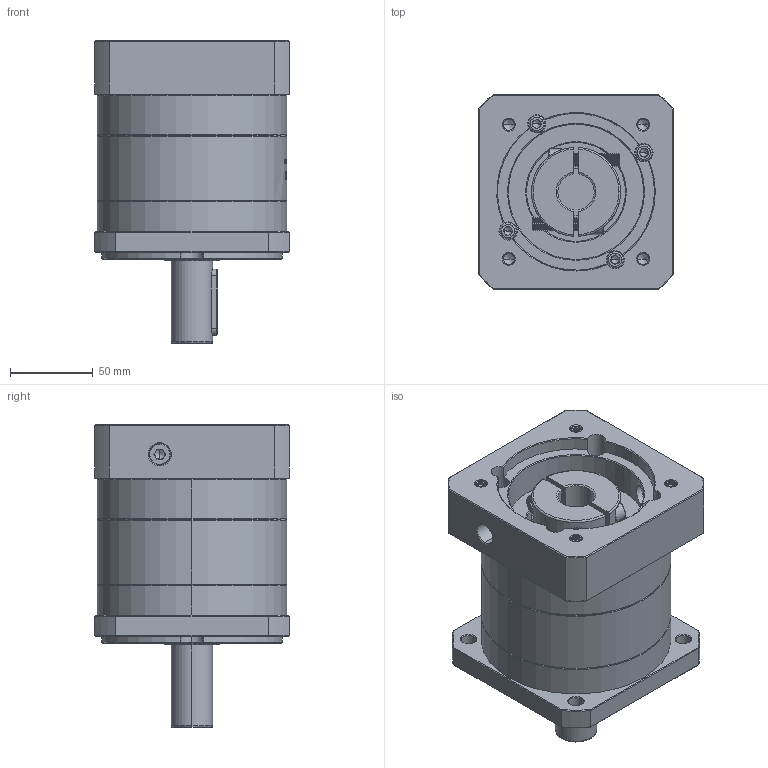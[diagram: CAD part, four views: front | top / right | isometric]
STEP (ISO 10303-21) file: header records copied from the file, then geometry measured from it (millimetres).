
FILE_DESCRIPTION (( 'STEP AP214' ), '1' );
FILE_NAME ('ZF120A-D25-L1-22-95-115-M8.step', '2023-03-07T09:28:26', ( '' ), ( '' ), 'SwSTEP 2.0', 'SolidWorks 2016', '' );
FILE_SCHEMA (( 'AUTOMOTIVE_DESIGN' ));
Length unit declared in the file: millimetre
Products named in the file (1): ZF120A-D25-L1-22-95-115-M8
Bounding box: 118 x 118 x 183.5 mm (x, y, z)
Volume: 1360581.3 mm3; surface area: 158805.1 mm2
Topology: 6 solids, 6 shells, 1959 faces, 5137 edges, 3272 vertices
Faces by surface type: plane 857, cylinder 429, bspline 341, cone 332
Entity records: 107273 total; most frequent: CARTESIAN_POINT 41371, ORIENTED_EDGE 10214, DIRECTION 7888, EDGE_CURVE 5107, VERTEX_POINT 3272, LINE 2750, VECTOR 2750, AXIS2_PLACEMENT_3D 2569
